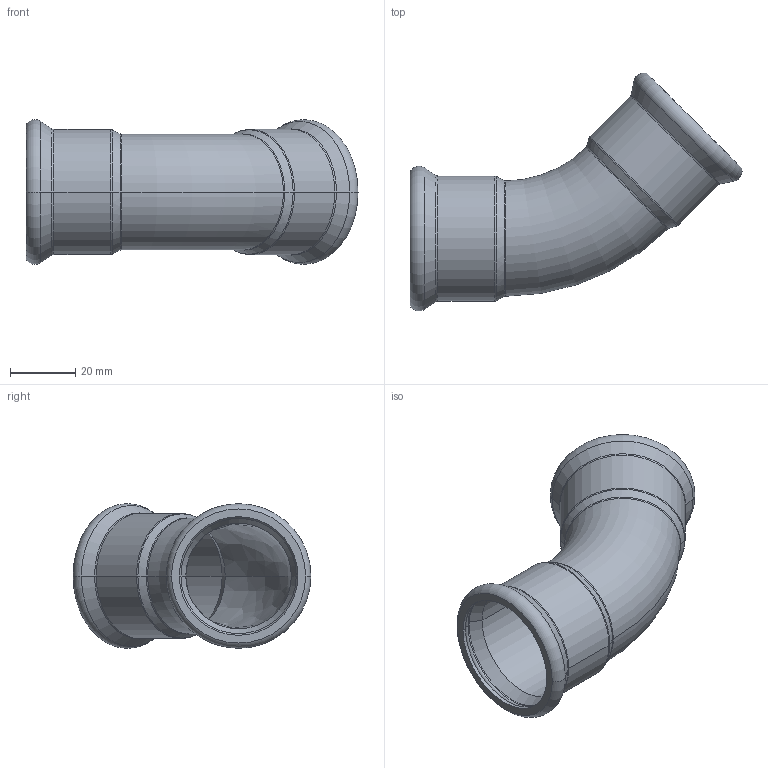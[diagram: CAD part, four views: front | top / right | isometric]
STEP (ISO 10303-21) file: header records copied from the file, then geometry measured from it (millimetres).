
FILE_DESCRIPTION (( 'STEP AP214' ), '1' );
FILE_NAME ('E350045.STEP', '2025-08-17T07:09:08', ( '' ), ( '' ), 'SwSTEP 2.0', 'SolidWorks 2020', '' );
FILE_SCHEMA (( 'AUTOMOTIVE_DESIGN' ));
Length unit declared in the file: millimetre
Products named in the file (1): E350045
Bounding box: 101.61 x 72.8 x 44.28 mm (x, y, z)
Volume: 18540.3 mm3; surface area: 25878.2 mm2
Topology: 3 solids, 3 shells, 64 faces, 136 edges, 76 vertices
Faces by surface type: torus 26, cone 16, cylinder 12, bspline 6, plane 4
Entity records: 3747 total; most frequent: CARTESIAN_POINT 1626, DIRECTION 322, ORIENTED_EDGE 272, AXIS2_PLACEMENT_3D 147, EDGE_CURVE 136, CIRCLE 88, VERTEX_POINT 76, EDGE_LOOP 68
